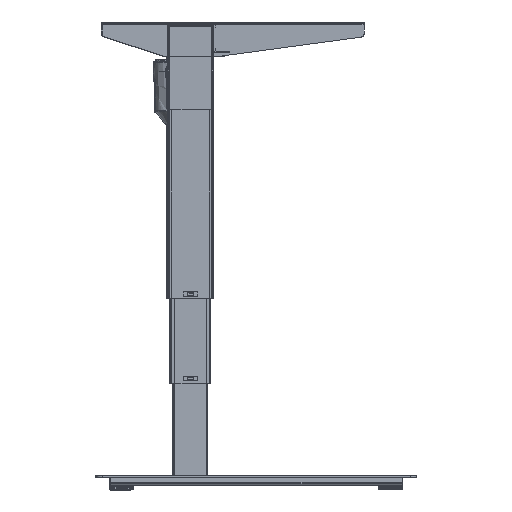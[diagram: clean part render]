
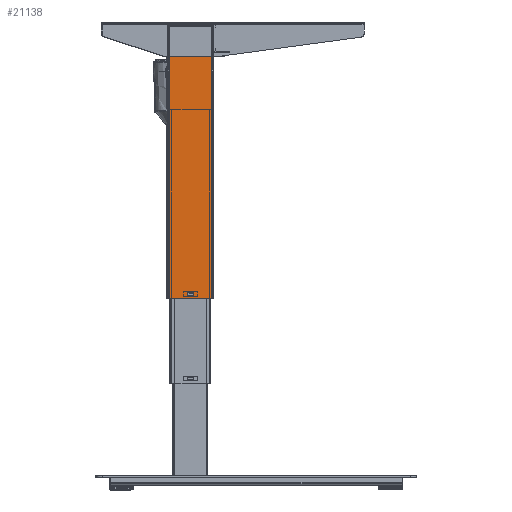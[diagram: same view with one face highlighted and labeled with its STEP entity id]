
A CAD part, left-side view. The second image highlights one B-rep face of the part: STEP entity #21138.
In plain terms, the highlighted planar face has unit normal (-1, 0, 0).
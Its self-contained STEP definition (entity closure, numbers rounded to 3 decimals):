
#821 = CARTESIAN_POINT ( 'NONE',  ( -30., -6., 10. ) ) ;
#8344 = AXIS2_PLACEMENT_3D ( 'NONE', #42959, #94797, #73044 ) ;
#10472 = CARTESIAN_POINT ( 'NONE',  ( -30., -40., 475. ) ) ;
#12023 = CARTESIAN_POINT ( 'NONE',  ( -30., 37., 480. ) ) ;
#13216 = CARTESIAN_POINT ( 'NONE',  ( -30., 6., 10. ) ) ;
#13674 = EDGE_CURVE ( 'NONE', #48934, #88621, #15368, .T. ) ;
#14373 = FACE_BOUND ( 'NONE', #26028, .T. ) ;
#15302 = VECTOR ( 'NONE', #55668, 1000. ) ;
#15368 = LINE ( 'NONE', #12023, #30351 ) ;
#15718 = VECTOR ( 'NONE', #16235, 1000. ) ;
#15986 = ORIENTED_EDGE ( 'NONE', *, *, #81929, .F. ) ;
#16235 = DIRECTION ( 'NONE',  ( 0., 0., -1. ) ) ;
#21138 = ADVANCED_FACE ( 'NONE', ( #14373, #90766 ), #49756, .F. ) ;
#23824 = DIRECTION ( 'NONE',  ( 0., 1., 0. ) ) ;
#24050 = VECTOR ( 'NONE', #76597, 1000. ) ;
#26005 = DIRECTION ( 'NONE',  ( 0., 0., 1. ) ) ;
#26028 = EDGE_LOOP ( 'NONE', ( #82845, #70815, #53432, #33526 ) ) ;
#27398 = CARTESIAN_POINT ( 'NONE',  ( -30., 37., 0. ) ) ;
#30351 = VECTOR ( 'NONE', #48131, 1000. ) ;
#31816 = VECTOR ( 'NONE', #37438, 1000. ) ;
#32796 = VERTEX_POINT ( 'NONE', #86021 ) ;
#33162 = EDGE_CURVE ( 'NONE', #68768, #32796, #72330, .T. ) ;
#33293 = EDGE_CURVE ( 'NONE', #50475, #93142, #43373, .T. ) ;
#33526 = ORIENTED_EDGE ( 'NONE', *, *, #33162, .T. ) ;
#34407 = ORIENTED_EDGE ( 'NONE', *, *, #82486, .T. ) ;
#34894 = LINE ( 'NONE', #10472, #15302 ) ;
#37438 = DIRECTION ( 'NONE',  ( 0., -1., 0. ) ) ;
#38661 = CARTESIAN_POINT ( 'NONE',  ( -30., -6., 6. ) ) ;
#39721 = CARTESIAN_POINT ( 'NONE',  ( -30., 37., 475. ) ) ;
#41500 = CARTESIAN_POINT ( 'NONE',  ( -30., 6., 10. ) ) ;
#42959 = CARTESIAN_POINT ( 'NONE',  ( -30., 37., 480. ) ) ;
#43373 = LINE ( 'NONE', #13216, #89756 ) ;
#46015 = EDGE_CURVE ( 'NONE', #93142, #68768, #46018, .T. ) ;
#46018 = LINE ( 'NONE', #77230, #24050 ) ;
#47068 = EDGE_LOOP ( 'NONE', ( #15986, #55643, #85200, #34407 ) ) ;
#48131 = DIRECTION ( 'NONE',  ( 0., 0., -1. ) ) ;
#48934 = VERTEX_POINT ( 'NONE', #39721 ) ;
#49756 = PLANE ( 'NONE',  #8344 ) ;
#50475 = VERTEX_POINT ( 'NONE', #95241 ) ;
#51603 = VERTEX_POINT ( 'NONE', #67434 ) ;
#53432 = ORIENTED_EDGE ( 'NONE', *, *, #46015, .T. ) ;
#54221 = CARTESIAN_POINT ( 'NONE',  ( -30., 6., 6. ) ) ;
#55643 = ORIENTED_EDGE ( 'NONE', *, *, #57218, .T. ) ;
#55668 = DIRECTION ( 'NONE',  ( 0., 1., 0. ) ) ;
#57218 = EDGE_CURVE ( 'NONE', #51603, #48934, #34894, .T. ) ;
#58931 = EDGE_CURVE ( 'NONE', #32796, #50475, #91981, .T. ) ;
#59613 = LINE ( 'NONE', #82837, #15718 ) ;
#59704 = CARTESIAN_POINT ( 'NONE',  ( -30., 37., 0. ) ) ;
#64577 = VERTEX_POINT ( 'NONE', #75358 ) ;
#67434 = CARTESIAN_POINT ( 'NONE',  ( -30., -37., 475. ) ) ;
#68768 = VERTEX_POINT ( 'NONE', #38661 ) ;
#70815 = ORIENTED_EDGE ( 'NONE', *, *, #33293, .T. ) ;
#72202 = VECTOR ( 'NONE', #26005, 1000. ) ;
#72330 = LINE ( 'NONE', #54221, #77012 ) ;
#73044 = DIRECTION ( 'NONE',  ( 0., 1., 0. ) ) ;
#75358 = CARTESIAN_POINT ( 'NONE',  ( -30., -37., 0. ) ) ;
#76597 = DIRECTION ( 'NONE',  ( 0., 0., -1. ) ) ;
#77012 = VECTOR ( 'NONE', #23824, 1000. ) ;
#77230 = CARTESIAN_POINT ( 'NONE',  ( -30., -6., 10. ) ) ;
#81589 = LINE ( 'NONE', #59704, #31816 ) ;
#81929 = EDGE_CURVE ( 'NONE', #51603, #64577, #59613, .T. ) ;
#82486 = EDGE_CURVE ( 'NONE', #88621, #64577, #81589, .T. ) ;
#82837 = CARTESIAN_POINT ( 'NONE',  ( -30., -37., 480. ) ) ;
#82845 = ORIENTED_EDGE ( 'NONE', *, *, #58931, .T. ) ;
#85200 = ORIENTED_EDGE ( 'NONE', *, *, #13674, .T. ) ;
#86021 = CARTESIAN_POINT ( 'NONE',  ( -30., 6., 6. ) ) ;
#88621 = VERTEX_POINT ( 'NONE', #27398 ) ;
#89756 = VECTOR ( 'NONE', #93458, 1000. ) ;
#90766 = FACE_OUTER_BOUND ( 'NONE', #47068, .T. ) ;
#91981 = LINE ( 'NONE', #41500, #72202 ) ;
#93142 = VERTEX_POINT ( 'NONE', #821 ) ;
#93458 = DIRECTION ( 'NONE',  ( 0., -1., 0. ) ) ;
#94797 = DIRECTION ( 'NONE',  ( 1., 0., 0. ) ) ;
#95241 = CARTESIAN_POINT ( 'NONE',  ( -30., 6., 10. ) ) ;
